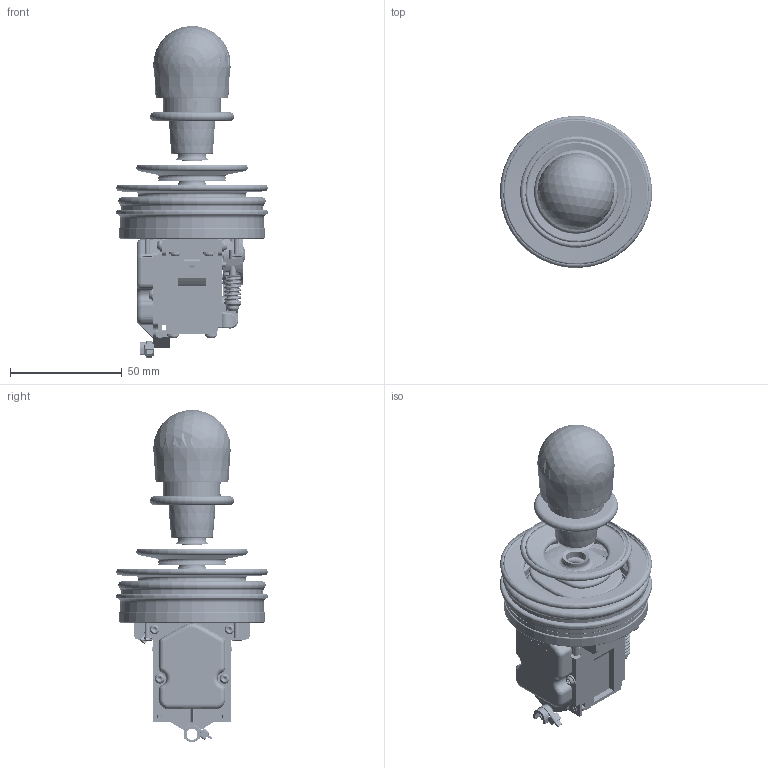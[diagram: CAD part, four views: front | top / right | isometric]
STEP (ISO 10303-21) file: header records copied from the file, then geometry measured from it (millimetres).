
FILE_DESCRIPTION(/* description */ (''),/* implementation_level */ '2;1');
FILE_NAME(/* name */ 'S:\Entwicklung\01_CAD-Daten\01_AIDATA-GT\1_1_Joysticks\SK216\Zusammenstellungen\STEP\216-028.stp',/* time_stamp */ '2025-03-26T10:44:19+01:00',/* author */ ('jub'),/* organization */ (''),/* preprocessor_version */ 'ST-DEVELOPER v18.1',/* originating_system */ 'Autodesk Inventor 2021',/* authorisation */ '');
FILE_SCHEMA (('AUTOMOTIVE_DESIGN { 1 0 10303 214 3 1 1 }'));
Length unit declared in the file: millimetre
Products named in the file (1): 216-028
Bounding box: 68 x 68 x 148.45 mm (x, y, z)
Volume: 89433.7 mm3; surface area: 98596.8 mm2
Topology: 25 solids, 46 shells, 5224 faces, 13981 edges, 8895 vertices
Faces by surface type: plane 2574, cylinder 1313, bspline 666, cone 286, torus 274, sphere 111
Full cylindrical faces by diameter (mm): 0.6 x1, 1.3 x9, 1.4 x1, 1.425 x3, 1.5 x7, 1.7 x2, 1.83 x1, 1.9 x1, 2 x26, 2.013 x1, 2.076 x2, 2.1 x1, 2.127 x2, 2.15 x4, 2.2 x8, 2.225 x6, 2.4 x4, 2.5 x22, 2.54 x1, 2.55 x3, 2.6 x8, 2.65 x2, 2.7 x17, 2.775 x2, 2.826 x2, 2.83 x4, 3 x9, 3.05 x2, 3.1 x1, 3.15 x4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
Entity records: 207361 total; most frequent: CARTESIAN_POINT 79998, ORIENTED_EDGE 27780, DIRECTION 24786, EDGE_CURVE 13894, VERTEX_POINT 8931, AXIS2_PLACEMENT_3D 8529, LINE 7728, VECTOR 7728
